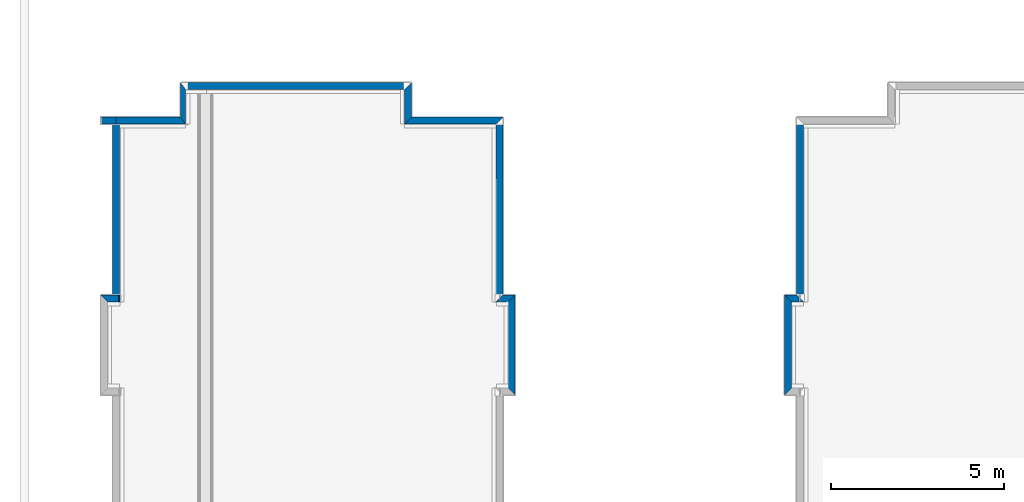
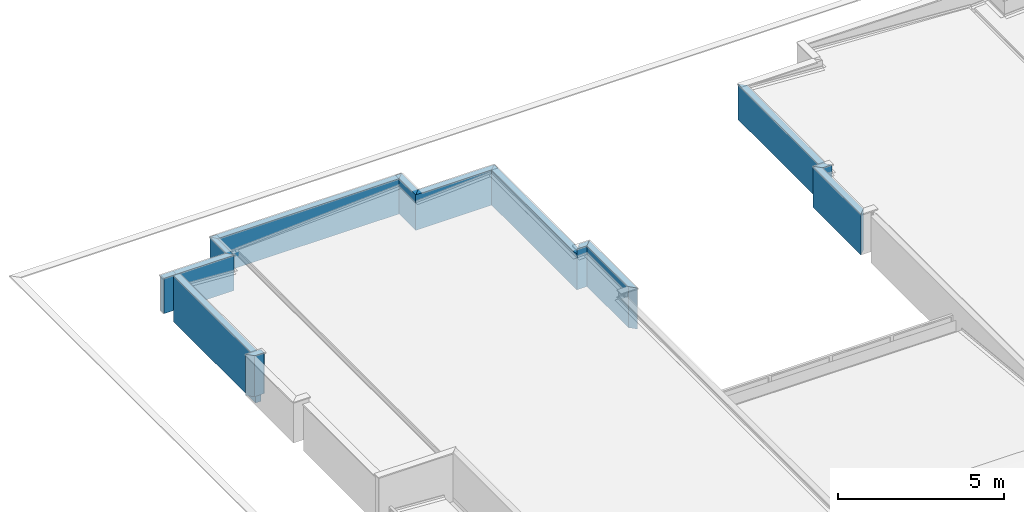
# One storey, part 7 of 25: 15 walls, 4 openings.
"""IFC4 building model written with IfcOpenShell, lengths in metres."""

from ifc_helpers import new_model, entity, si_unit, converted_unit, derived_unit, direction, frame, origin_with_axes, origin_2d_with_axis, place, context, subcontext, project, spatial, line, indexed_curve, rectangle, outline, extrude, polygons, source, transform, mapped, material, layer, layer_set, layer_usage, constituent, constituent_set, type_object, element, fill, save


model = new_model("IFC4")

# Units and contexts
model_context = context("Model", 3, precision=1e-05, world=origin_with_axes(), true_north=direction((0.0, 1.0)))
body_context = subcontext(model_context, "Body", "Model", "MODEL_VIEW")
ifc_project = project(units=[si_unit("LENGTHUNIT", "METRE"), si_unit("AREAUNIT", "SQUARE_METRE"), si_unit("VOLUMEUNIT", "CUBIC_METRE"), converted_unit("PLANEANGLEUNIT", "DEGREE", entity("IfcPlaneAngleMeasure", 0.0174532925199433), si_unit("PLANEANGLEUNIT", "RADIAN"), dimensions=[0, 0, 0, 0, 0, 0, 0]), converted_unit("TIMEUNIT", "Year", entity("IfcTimeMeasure", 31557600.0), si_unit("TIMEUNIT", "SECOND"), dimensions=[0, 0, 1, 0, 0, 0, 0]), si_unit("MASSUNIT", "GRAM", prefix="KILO"), si_unit("THERMODYNAMICTEMPERATUREUNIT", "DEGREE_CELSIUS"), si_unit("LUMINOUSINTENSITYUNIT", "LUMEN"), si_unit("ENERGYUNIT", "JOULE", prefix="MEGA"), derived_unit("THERMALCONDUCTANCEUNIT", [(si_unit("POWERUNIT", "WATT"), 1), (si_unit("LENGTHUNIT", "METRE"), -1), (si_unit("THERMODYNAMICTEMPERATUREUNIT", "KELVIN"), -1)]), derived_unit("SPECIFICHEATCAPACITYUNIT", [(si_unit("ENERGYUNIT", "JOULE"), 1), (si_unit("MASSUNIT", "GRAM", prefix="KILO"), -1), (si_unit("THERMODYNAMICTEMPERATUREUNIT", "KELVIN"), -1)]), derived_unit("MASSDENSITYUNIT", [(si_unit("MASSUNIT", "GRAM", prefix="KILO"), 1), (si_unit("VOLUMEUNIT", "CUBIC_METRE"), -1)])], contexts=[model_context])

# Site, building, storey
site_placement = place(None, origin_with_axes())
site = spatial("IfcSite", under=ifc_project, at=site_placement, Name="PADRÃO", CompositionType="ELEMENT")
building_placement = place(site_placement, origin_with_axes())
building = spatial("IfcBuilding", under=site, at=building_placement, Name="CRECHE PRÉ-ESCOLA TIPO 2", CompositionType="ELEMENT")
storey_placement = place(building_placement, frame((0.0, 0.0, 3.26), z_axis=(0.0, 0.0, 1.0), x_axis=(1.0, 0.0, 0.0)))
storey = spatial("IfcBuildingStorey", under=building, at=storey_placement, Name="COBERTURA", CompositionType="ELEMENT", Elevation=3.26)

# Walls
ifc_material_1 = material(Name="EI-REV-Pintura Acrílica Cor Branco Gelo")
ifc_layer_1 = layer(ifc_material_1, 0.015, ventilated="UNKNOWN", Name="EI-REV-Pintura Acrílica Cor Branco Gelo 1")
ifc_material_2 = material(Name="EI-REV-Massa Acrílica (externa)")
ifc_layer_2 = layer(ifc_material_2, 0.005, ventilated="UNKNOWN", Name="EI-REV-Massa Acrílica (externa) 1")
ifc_material_3 = material(Name="EI-REV-Massa única - Fachada")
ifc_layer_3 = layer(ifc_material_3, 0.005, ventilated="UNKNOWN", Name="EI-REV-Massa única - Fachada 1")
ifc_material_4 = material(Name="EI-REV-Chapisco (externo)")
ifc_layer_4 = layer(ifc_material_4, 0.005, ventilated="UNKNOWN", Name="EI-REV-Chapisco (externo) 1")
ifc_material_5 = material(Name="TIJOLO - CERAMICO 9x19x39 - espessura 15cm")
ifc_layer_5 = layer(ifc_material_5, 0.09, ventilated="UNKNOWN", Name="TIJOLO - CERAMICO 9x19x39 - espessura 15cm")
ifc_layer_6 = layer(ifc_material_4, 0.005, ventilated="UNKNOWN", Name="EI-REV-Chapisco (externo) 2")
ifc_layer_7 = layer(ifc_material_3, 0.005, ventilated="UNKNOWN", Name="EI-REV-Massa única - Fachada 2")
ifc_layer_8 = layer(ifc_material_2, 0.005, ventilated="UNKNOWN", Name="EI-REV-Massa Acrílica (externa) 2")
ifc_layer_9 = layer(ifc_material_1, 0.015, ventilated="UNKNOWN", Name="EI-REV-Pintura Acrílica Cor Branco Gelo 2")
ifc_layer_set_1 = layer_set([ifc_layer_1, ifc_layer_2, ifc_layer_3, ifc_layer_4, ifc_layer_5, ifc_layer_6, ifc_layer_7, ifc_layer_8, ifc_layer_9], Name="FNDE-PLAT_AL09-Pintura Branca")
ifc_layer_usage_1 = layer_usage(ifc_layer_set_1, "AXIS2", "POSITIVE", -0.075)
wall_type_1 = type_object("IfcWallType", Name="FNDE-PLAT_AL09-Pintura Branca 150", PredefinedType="NOTDEFINED")
wall_1_placement = place(storey_placement, frame((-35.3050960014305, 40.8500019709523, 0.0), z_axis=(0.0, 0.0, 1.0), x_axis=(-2.60566381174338e-07, -0.999999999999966, 0.0)))
element("IfcWall", 1, at=wall_1_placement, inside=storey, type_object=wall_type_1, material=ifc_layer_usage_1, Name="AL09", PredefinedType="NOTDEFINED", context=body_context, shape_type="SweptSolid", body=[
    extrude(outline(indexed_curve([(-0.0999999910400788, -0.0750000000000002), (0.899999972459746, -0.0750000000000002), (1.09999993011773, 0.0750000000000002), (0.0999999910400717, 0.0750000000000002)], segments=[line(1, 2, 3, 4, 1)])), origin_with_axes(), (0.0, 0.0, 1.0), 1.31),
])
ifc_material_6 = material(Name="EI-REV-Pintura Acrílica Cor Cinza")
ifc_layer_10 = layer(ifc_material_6, 0.015, ventilated="UNKNOWN", Name="EI-REV-Pintura Acrílica Cor Cinza")
ifc_layer_11 = layer(ifc_material_2, 0.005, ventilated="UNKNOWN", Name="EI-REV-Massa Acrílica (externa) 1")
ifc_layer_12 = layer(ifc_material_3, 0.005, ventilated="UNKNOWN", Name="EI-REV-Massa única - Fachada 1")
ifc_layer_13 = layer(ifc_material_4, 0.005, ventilated="UNKNOWN", Name="EI-REV-Chapisco (externo) 1")
ifc_material_7 = material(Name="TIJOLO - CERAMICO 14x19x39 - espessura 20cm")
ifc_layer_14 = layer(ifc_material_7, 0.14, ventilated="UNKNOWN", Name="TIJOLO - CERAMICO 14x19x39 - espessura 20cm")
ifc_layer_15 = layer(ifc_material_4, 0.005, ventilated="UNKNOWN", Name="EI-REV-Chapisco (externo) 2")
ifc_layer_16 = layer(ifc_material_3, 0.005, ventilated="UNKNOWN", Name="EI-REV-Massa única - Fachada 2")
ifc_layer_17 = layer(ifc_material_2, 0.005, ventilated="UNKNOWN", Name="EI-REV-Massa Acrílica (externa) 2")
ifc_layer_18 = layer(ifc_material_1, 0.015, ventilated="UNKNOWN", Name="EI-REV-Pintura Acrílica Cor Branco Gelo")
ifc_layer_set_2 = layer_set([ifc_layer_10, ifc_layer_11, ifc_layer_12, ifc_layer_13, ifc_layer_14, ifc_layer_15, ifc_layer_16, ifc_layer_17, ifc_layer_18], Name="FNDE-PLAT_AL14-Pintura cinza-branca")
ifc_layer_usage_2 = layer_usage(ifc_layer_set_2, "AXIS2", "POSITIVE", -0.1)
wall_type_2 = type_object("IfcWallType", Name="FNDE-PLAT_AL14-Pintura cinza-branca 200", PredefinedType="NOTDEFINED")
wall_2_placement = place(storey_placement, frame((-26.1400963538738, 39.8499354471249, 0.0), z_axis=(0.0, 0.0, 1.0), x_axis=(-1.0, 0.0, 0.0)))
element("IfcWall", 2, at=wall_2_placement, inside=storey, type_object=wall_type_2, material=ifc_layer_usage_2, Name="AL14", PredefinedType="NOTDEFINED", context=body_context, shape_type="SweptSolid", body=[
    extrude(outline(indexed_curve([(-0.0999999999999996, -0.100000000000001), (2.55002481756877, -0.100000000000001), (2.75002478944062, 0.100000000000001), (0.0999999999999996, 0.100000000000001)], segments=[line(1, 2, 3, 4, 1)])), origin_with_axes(), (0.0, 0.0, 1.0), 1.31),
])
ifc_layer_usage_3 = layer_usage(ifc_layer_set_2, "AXIS2", "POSITIVE", -0.1)
wall_3_placement = place(storey_placement, frame((-35.3050962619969, 39.8500020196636, 0.0), z_axis=(0.0, 0.0, 1.0), x_axis=(-1.0, -2.17138676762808e-08, 0.0)))
element("IfcWall", 3, at=wall_3_placement, inside=storey, type_object=wall_type_2, material=ifc_layer_usage_3, Name="AL14", PredefinedType="NOTDEFINED", context=body_context, shape_type="SweptSolid", body=[
    extrude(outline(indexed_curve([(0.0749999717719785, -0.0999999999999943), (1.93500775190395, -0.100000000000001), (1.93500775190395, 0.100000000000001), (-0.0749999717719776, 0.100000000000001)], segments=[line(1, 2, 3, 4, 1)])), origin_with_axes(), (0.0, 0.0, 1.0), 1.31),
])
ifc_layer_19 = layer(ifc_material_1, 0.015, ventilated="UNKNOWN", Name="EI-REV-Pintura Acrílica Cor Branco Gelo 1")
ifc_layer_20 = layer(ifc_material_2, 0.005, ventilated="UNKNOWN", Name="EI-REV-Massa Acrílica (externa) 1")
ifc_layer_21 = layer(ifc_material_3, 0.005, ventilated="UNKNOWN", Name="EI-REV-Massa única - Fachada 1")
ifc_layer_22 = layer(ifc_material_4, 0.005, ventilated="UNKNOWN", Name="EI-REV-Chapisco (externo) 1")
ifc_layer_23 = layer(ifc_material_7, 0.14, ventilated="UNKNOWN", Name="TIJOLO - CERAMICO 14x19x39 - espessura 20cm")
ifc_layer_24 = layer(ifc_material_4, 0.005, ventilated="UNKNOWN", Name="EI-REV-Chapisco (externo) 2")
ifc_layer_25 = layer(ifc_material_3, 0.005, ventilated="UNKNOWN", Name="EI-REV-Massa única - Fachada 2")
ifc_layer_26 = layer(ifc_material_2, 0.005, ventilated="UNKNOWN", Name="EI-REV-Massa Acrílica (externa) 2")
ifc_layer_27 = layer(ifc_material_1, 0.015, ventilated="UNKNOWN", Name="EI-REV-Pintura Acrílica Cor Branco Gelo 2")
ifc_layer_set_3 = layer_set([ifc_layer_19, ifc_layer_20, ifc_layer_21, ifc_layer_22, ifc_layer_23, ifc_layer_24, ifc_layer_25, ifc_layer_26, ifc_layer_27], Name="FNDE-PLAT_AL14-Pintura Branca")
ifc_layer_usage_4 = layer_usage(ifc_layer_set_3, "AXIS2", "POSITIVE", -0.1)
wall_type_3 = type_object("IfcWallType", Name="FNDE-PLAT_AL14-Pintura Branca 200", PredefinedType="NOTDEFINED")
wall_4_placement = place(storey_placement, frame((-28.7901211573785, 39.8499354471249, 0.0), z_axis=(0.0, 0.0, 1.0), x_axis=(-1.40640753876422e-07, 0.99999999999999, 0.0)))
element("IfcWall", 4, at=wall_4_placement, inside=storey, type_object=wall_type_3, material=ifc_layer_usage_4, Name="AL14", PredefinedType="NOTDEFINED", context=body_context, shape_type="SweptSolid", body=[
    extrude(outline(indexed_curve([(0.0999999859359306, -0.100000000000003), (1.10006557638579, -0.100000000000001), (0.900065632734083, 0.0999999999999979), (-0.0999999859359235, 0.0999999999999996)], segments=[line(1, 2, 3, 4, 1)])), origin_with_axes(), (0.0, 0.0, 1.0), 1.31),
])
ifc_layer_usage_5 = layer_usage(ifc_layer_set_3, "AXIS2", "POSITIVE", -0.1)
wall_5_placement = place(storey_placement, frame((-28.7901212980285, 40.8500010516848, 0.0), z_axis=(0.0, 0.0, 1.0), x_axis=(-0.99999999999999, 1.4110069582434e-07, 0.0)))
element("IfcWall", 5, at=wall_5_placement, inside=storey, type_object=wall_type_3, material=ifc_layer_usage_5, Name="AL14", PredefinedType="NOTDEFINED", context=body_context, shape_type="SweptSolid", body=[
    extrude(outline(indexed_curve([(-0.0999999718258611, -0.100000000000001), (6.58997469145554, -0.100000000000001), (6.43997471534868, 0.0999999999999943), (0.0999999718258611, 0.0999999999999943)], segments=[line(1, 2, 3, 4, 1)])), origin_with_axes(), (0.0, 0.0, 1.0), 1.31),
])
ifc_layer_usage_6 = layer_usage(ifc_layer_set_3, "AXIS2", "NEGATIVE", 0.1)
wall_6_placement = place(storey_placement, frame((-37.2401035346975, 34.7000019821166, -0.409999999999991), z_axis=(0.0, 0.0, 1.0), x_axis=(-9.304918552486e-08, 0.999999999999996, 0.0)))
element("IfcWall", 6, at=wall_6_placement, inside=storey, type_object=wall_type_3, material=ifc_layer_usage_6, Name="AL14", PredefinedType="NOTDEFINED", context=body_context, shape_type="SweptSolid", body=[
    extrude(outline(indexed_curve([(0.100000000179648, -0.1), (5.04999998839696, -0.0999999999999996), (5.05000000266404, 0.100000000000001), (0.0999880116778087, 0.1)], segments=[line(1, 2, 3, 4, 1)])), origin_with_axes(), (0.0, 0.0, 1.0), 1.72),
])
ifc_layer_usage_7 = layer_usage(ifc_layer_set_3, "AXIS2", "NEGATIVE", 0.1)
wall_7_placement = place(storey_placement, frame((-26.1400963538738, 34.7001830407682, 0.0), z_axis=(0.0, 0.0, 1.0), x_axis=(0.0, 1.0, 0.0)))
element("IfcWall", 7, at=wall_7_placement, inside=storey, type_object=wall_type_3, material=ifc_layer_usage_7, Name="AL14", PredefinedType="NOTDEFINED", context=body_context, shape_type="SweptSolid", body=[
    extrude(outline(indexed_curve([(0.099993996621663, -0.0999999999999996), (5.24975240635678, -0.0999999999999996), (5.04975240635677, 0.0999999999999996), (-0.0999939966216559, 0.0999999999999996)], segments=[line(1, 2, 3, 4, 1)])), origin_with_axes(), (0.0, 0.0, 1.0), 1.31),
])
ifc_layer_usage_8 = layer_usage(ifc_layer_set_3, "AXIS2", "NEGATIVE", 0.1)
wall_8_placement = place(storey_placement, frame((-17.4400505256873, 34.7001823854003, 0.0), z_axis=(0.0, 0.0, 1.0), x_axis=(0.0, 1.0, 0.0)))
element("IfcWall", 8, at=wall_8_placement, inside=storey, type_object=wall_type_3, material=ifc_layer_usage_8, Name="AL14", PredefinedType="NOTDEFINED", context=body_context, shape_type="SweptSolid", body=[
    extrude(outline(indexed_curve([(-0.0999939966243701, -0.100000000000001), (5.0499080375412, -0.100000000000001), (5.24990803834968, 0.0999999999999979), (0.0999939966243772, 0.0999999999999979)], segments=[line(1, 2, 3, 4, 1)])), origin_with_axes(), (0.0, 0.0, 1.0), 1.31),
])
ifc_layer_usage_9 = layer_usage(ifc_layer_set_3, "AXIS2", "NEGATIVE", 0.1)
wall_9_placement = place(storey_placement, frame((-17.7900123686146, 32.0001883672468, 0.0), z_axis=(0.0, 0.0, 1.0), x_axis=(0.0, 1.0, 0.0)))
element("IfcWall", 9, at=wall_9_placement, inside=storey, type_object=wall_type_3, material=ifc_layer_usage_9, Name="AL14", PredefinedType="NOTDEFINED", context=body_context, shape_type="SweptSolid", body=[
    extrude(outline(indexed_curve([(0.0999999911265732, -0.100000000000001), (2.59997901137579, -0.100000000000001), (2.79996700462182, 0.0999999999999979), (-0.0999999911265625, 0.0999999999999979)], segments=[line(1, 2, 3, 4, 1)])), origin_with_axes(), (0.0, 0.0, 1.0), 1.51),
])

# Wall, opening
ifc_layer_usage_10 = layer_usage(ifc_layer_set_3, "AXIS2", "NEGATIVE", 0.1)
wall_10_placement = place(storey_placement, frame((-17.790012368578, 34.7001613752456, 0.0), z_axis=(0.0, 0.0, 1.0), x_axis=(0.999999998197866, 6.00355582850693e-05, 0.0)))
wall_10 = element("IfcWall", 10, at=wall_10_placement, inside=storey, type_object=wall_type_3, material=ifc_layer_usage_10, Name="AL14", PredefinedType="NOTDEFINED", context=body_context, shape_type="SweptSolid", body=[
    extrude(outline(indexed_curve([(0.0999939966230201, -0.100000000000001), (0.449955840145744, -0.100000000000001), (0.249967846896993, 0.100000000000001), (-0.0999939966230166, 0.100000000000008)], segments=[line(1, 2, 3, 4, 1)])), origin_with_axes(), (0.0, 0.0, 1.0), 1.51),
])
opening_1_placement = place(wall_10_placement, frame((0.34996184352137, 0.0, 0.0), z_axis=(0.0, 0.0, 1.0), x_axis=(1.0, 0.0, 0.0)))
element("IfcOpeningElement", 11, at=opening_1_placement, cuts=wall_10, Name="AL14", ObjectType="Recess", context=body_context, shape_type="Tessellation", body=[
    polygons([(-0.0199999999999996, -0.0799999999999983, 1.51), (-0.0199999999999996, -0.0799999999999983, 0.0), (-0.0200000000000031, -0.0850000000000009, 0.0), (-0.0200000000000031, -0.0850000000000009, 1.51), (-0.0249999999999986, -0.0799999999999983, 1.51), (-0.0249999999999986, -0.0799999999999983, 0.0), (0.0, 0.0, 0.0), (0.0, -0.100000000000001, 0.0), (-0.0150000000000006, -0.100000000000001, 0.0), (-0.0150000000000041, -0.0850000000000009, 0.0), (-0.0249999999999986, 0.0250015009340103, 0.0), (-0.0150000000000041, -0.0850000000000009, 1.51), (-0.0150000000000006, -0.100000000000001, 1.51), (0.0, -0.100000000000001, 1.51), (0.0, 0.0, 1.51), (-0.0249999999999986, 0.0250015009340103, 1.51)], [[[1, 2, 3, 4]], [[2, 1, 5, 6]], [[7, 8, 9, 10, 3, 2, 6, 11]], [[10, 12, 4, 3]], [[1, 4, 12, 13, 14, 15, 16, 5]], [[5, 16, 11, 6]], [[15, 14, 8, 7]], [[14, 13, 9, 8]], [[12, 10, 9, 13]], [[7, 11, 16, 15]]], closed=True),
])

# Wall
ifc_layer_usage_11 = layer_usage(ifc_layer_set_3, "AXIS2", "POSITIVE", -0.1)
wall_11_placement = place(storey_placement, frame((-25.7895277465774, 32.0001889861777, 0.0), z_axis=(0.0, 0.0, 1.0), x_axis=(0.0, 1.0, 0.0)))
element("IfcWall", 12, at=wall_11_placement, inside=storey, type_object=wall_type_3, material=ifc_layer_usage_11, Name="AL14", PredefinedType="NOTDEFINED", context=body_context, shape_type="SweptSolid", body=[
    extrude(outline(indexed_curve([(-0.0999999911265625, -0.0999999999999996), (2.79996700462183, -0.0999999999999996), (2.59997901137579, 0.0999999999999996), (0.0999999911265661, 0.0999999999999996)], segments=[line(1, 2, 3, 4, 1)])), origin_with_axes(), (0.0, 0.0, 1.0), 1.51),
])

# Wall, opening
ifc_layer_usage_12 = layer_usage(ifc_layer_set_3, "AXIS2", "POSITIVE", -0.1)
wall_12_placement = place(storey_placement, frame((-25.7895277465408, 34.7001619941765, 0.0), z_axis=(0.0, 0.0, 1.0), x_axis=(-0.999999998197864, 6.00355854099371e-05, 0.0)))
wall_12 = element("IfcWall", 13, at=wall_12_placement, inside=storey, type_object=wall_type_3, material=ifc_layer_usage_12, Name="AL14", PredefinedType="NOTDEFINED", context=body_context, shape_type="SweptSolid", body=[
    extrude(outline(indexed_curve([(-0.0999939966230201, -0.100000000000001), (0.250574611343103, -0.100000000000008), (0.450562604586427, 0.100000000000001), (0.0999939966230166, 0.100000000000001)], segments=[line(1, 2, 3, 4, 1)])), origin_with_axes(), (0.0, 0.0, 1.0), 1.51),
])
opening_2_placement = place(wall_12_placement, frame((0.350568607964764, 0.0, 0.0), z_axis=(0.0, 0.0, 1.0), x_axis=(1.0, 0.0, 0.0)))
element("IfcOpeningElement", 14, at=opening_2_placement, cuts=wall_12, Name="AL14", ObjectType="Recess", context=body_context, shape_type="Tessellation", body=[
    polygons([(-0.0199999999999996, 0.0799999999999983, 0.0), (-0.0199999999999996, 0.0799999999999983, 1.51), (-0.0199999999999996, 0.085000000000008, 1.51), (-0.0199999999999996, 0.085000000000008, 0.0), (-0.0249999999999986, 0.0800000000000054, 0.0), (-0.0249999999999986, 0.0800000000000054, 1.51), (0.0, 0.0, 1.51), (0.0, 0.0999999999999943, 1.51), (-0.0149999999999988, 0.100000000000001, 1.51), (-0.0149999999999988, 0.0850000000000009, 1.51), (-0.0249999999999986, -0.0250015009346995, 1.51), (-0.0149999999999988, 0.0850000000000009, 0.0), (-0.0149999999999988, 0.100000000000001, 0.0), (0.0, 0.0999999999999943, 0.0), (0.0, 0.0, 0.0), (-0.0249999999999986, -0.0250015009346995, 0.0)], [[[1, 2, 3, 4]], [[2, 1, 5, 6]], [[7, 8, 9, 10, 3, 2, 6, 11]], [[10, 12, 4, 3]], [[1, 4, 12, 13, 14, 15, 16, 5]], [[11, 6, 5, 16]], [[8, 7, 15, 14]], [[9, 8, 14, 13]], [[12, 10, 9, 13]], [[11, 16, 15, 7]]], closed=True),
])

ifc_layer_28 = layer(ifc_material_6, 0.015, ventilated="UNKNOWN", Name="EI-REV-Pintura Acrílica Cor Cinza 1")
ifc_layer_29 = layer(ifc_material_2, 0.005, ventilated="UNKNOWN", Name="EI-REV-Massa Acrílica (externa) 1")
ifc_layer_30 = layer(ifc_material_3, 0.005, ventilated="UNKNOWN", Name="EI-REV-Massa única - Fachada 1")
ifc_layer_31 = layer(ifc_material_4, 0.005, ventilated="UNKNOWN", Name="EI-REV-Chapisco (externo) 1")
ifc_layer_32 = layer(ifc_material_7, 0.14, ventilated="UNKNOWN", Name="TIJOLO - CERAMICO 14x19x39 - espessura 20cm")
ifc_layer_33 = layer(ifc_material_4, 0.005, ventilated="UNKNOWN", Name="EI-REV-Chapisco (externo) 2")
ifc_layer_34 = layer(ifc_material_3, 0.005, ventilated="UNKNOWN", Name="EI-REV-Massa única - Fachada 2")
ifc_layer_35 = layer(ifc_material_2, 0.005, ventilated="UNKNOWN", Name="EI-REV-Massa Acrílica (externa) 2")
ifc_layer_36 = layer(ifc_material_6, 0.015, ventilated="UNKNOWN", Name="EI-REV-Pintura Acrílica Cor Cinza 2")
ifc_layer_set_4 = layer_set([ifc_layer_28, ifc_layer_29, ifc_layer_30, ifc_layer_31, ifc_layer_32, ifc_layer_33, ifc_layer_34, ifc_layer_35, ifc_layer_36], Name="FNDE-PLAT_AL14-Pintura cinza")
ifc_layer_usage_13 = layer_usage(ifc_layer_set_4, "AXIS2", "POSITIVE", -0.1)
wall_type_4 = type_object("IfcWallType", Name="FNDE-PLAT_AL14-Pintura cinza 200", PredefinedType="NOTDEFINED")
wall_13_placement = place(storey_placement, frame((-37.2401040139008, 39.8500019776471, 0.0), z_axis=(0.0, 0.0, 1.0), x_axis=(-1.0, -2.17138795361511e-08, 0.0)))
wall_13 = element("IfcWall", 15, at=wall_13_placement, inside=storey, type_object=wall_type_4, material=ifc_layer_usage_13, Name="AL14", PredefinedType="NOTDEFINED", context=body_context, shape_type="SweptSolid", body=[
    extrude(outline(indexed_curve([(0.0, -0.100000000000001), (0.449967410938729, -0.100000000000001), (0.449967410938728, 0.100000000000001), (0.0, 0.100000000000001)], segments=[line(1, 2, 3, 4, 1)])), origin_with_axes(), (0.0, 0.0, 1.0), 1.31),
])
opening_3_placement = place(wall_13_placement, frame((0.449967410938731, 0.0, 0.0), z_axis=(0.0, 0.0, 1.0), x_axis=(1.0, 0.0, 0.0)))
element("IfcOpeningElement", 16, at=opening_3_placement, cuts=wall_13, Name="AL14", context=body_context, shape_type="SweptSolid", body=[
    extrude(rectangle(XDim=0.200000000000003, YDim=0.0150000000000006, at=origin_2d_with_axis()), frame((-0.00749999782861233, -9.60768176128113e-09, 0.0), z_axis=(0.0, 0.0, 1.0), x_axis=(-2.17138795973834e-08, -1.0, 0.0)), (0.0, 0.0, 1.0), 1.31),
    extrude(rectangle(XDim=0.185000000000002, YDim=0.00500000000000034, at=origin_2d_with_axis()), frame((-0.0174999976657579, 0.00749999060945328, 0.0), z_axis=(0.0, 0.0, 1.0), x_axis=(-2.17138795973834e-08, -1.0, 0.0)), (0.0, 0.0, 1.0), 1.31),
    extrude(rectangle(XDim=0.18, YDim=0.00500000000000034, at=origin_2d_with_axis()), frame((-0.0224999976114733, 0.00999999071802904, 0.0), z_axis=(0.0, 0.0, 1.0), x_axis=(-2.17138795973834e-08, -1.0, 0.0)), (0.0, 0.0, 1.0), 1.31),
])

# Walls, opening
ifc_material_8 = material(Name="EI-REV-Pintura Acrílica Cor Azul Externa")
ifc_layer_37 = layer(ifc_material_8, 0.015, ventilated="UNKNOWN", Name="EI-REV-Pintura Acrílica Cor Azul Externa")
ifc_layer_38 = layer(ifc_material_2, 0.005, ventilated="UNKNOWN", Name="EI-REV-Massa Acrílica (externa) 1")
ifc_layer_39 = layer(ifc_material_3, 0.005, ventilated="UNKNOWN", Name="EI-REV-Massa única - Fachada 1")
ifc_layer_40 = layer(ifc_material_4, 0.005, ventilated="UNKNOWN", Name="EI-REV-Chapisco (externo) 1")
ifc_layer_41 = layer(ifc_material_7, 0.14, ventilated="UNKNOWN", Name="TIJOLO - CERAMICO 14x19x39 - espessura 20cm")
ifc_layer_42 = layer(ifc_material_4, 0.005, ventilated="UNKNOWN", Name="EI-REV-Chapisco (externo) 2")
ifc_layer_43 = layer(ifc_material_3, 0.005, ventilated="UNKNOWN", Name="EI-REV-Massa única - Fachada 2")
ifc_layer_44 = layer(ifc_material_2, 0.005, ventilated="UNKNOWN", Name="EI-REV-Massa Acrílica (externa) 2")
ifc_layer_45 = layer(ifc_material_1, 0.015, ventilated="UNKNOWN", Name="EI-REV-Pintura Acrílica Cor Branco Gelo")
ifc_layer_set_5 = layer_set([ifc_layer_37, ifc_layer_38, ifc_layer_39, ifc_layer_40, ifc_layer_41, ifc_layer_42, ifc_layer_43, ifc_layer_44, ifc_layer_45], Name="FNDE-PLAT_AL14-Pintura Azul - Branca")
ifc_layer_usage_14 = layer_usage(ifc_layer_set_5, "AXIS2", "NEGATIVE", 0.1)
wall_type_5 = type_object("IfcWallType", Name="FNDE-PLAT_AL14-Pintura Azul - Branca 200", PredefinedType="NOTDEFINED")
wall_14_placement = place(storey_placement, frame((-37.5900921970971, 34.6999749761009, 0.0), z_axis=(0.0, 0.0, 1.0), x_axis=(0.999999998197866, 6.00355582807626e-05, 0.0)))
wall_14 = element("IfcWall", 17, at=wall_14_placement, inside=storey, type_object=wall_type_5, material=ifc_layer_usage_14, Name="AL14", PredefinedType="NOTDEFINED", context=body_context, shape_type="SweptSolid", body=[
    extrude(outline(indexed_curve([(0.0999939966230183, -0.100000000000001), (0.45, -0.100000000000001), (0.45, 0.100000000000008), (-0.0999939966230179, 0.100000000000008)], segments=[line(1, 2, 3, 4, 1)])), origin_with_axes(), (0.0, 0.0, 1.0), 1.51),
])
opening_4_placement = place(wall_14_placement, frame((0.45, 0.0, 0.0), z_axis=(0.0, 0.0, 1.0), x_axis=(1.0, 0.0, 0.0)))
opening_4 = element("IfcOpeningElement", 18, at=opening_4_placement, cuts=wall_14, Name="AL14", ObjectType="Recess", context=body_context, shape_type="SweptSolid", body=[
    extrude(rectangle(XDim=0.185000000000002, YDim=0.0149999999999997, at=origin_2d_with_axis()), frame((-0.00750000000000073, -0.00750000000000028, 0.0), z_axis=(0.0, 0.0, 1.0), x_axis=(0.0, -1.0, 0.0)), (0.0, 0.0, 1.0), 1.51),
    extrude(rectangle(XDim=0.170000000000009, YDim=0.00500000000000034, at=origin_2d_with_axis()), frame((-0.0175000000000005, 0.0, 0.0), z_axis=(0.0, 0.0, 1.0), x_axis=(0.0, -1.0, 0.0)), (0.0, 0.0, 1.0), 1.51),
    extrude(rectangle(XDim=0.165000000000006, YDim=0.00499999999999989, at=origin_2d_with_axis()), frame((-0.0225000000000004, 0.00249999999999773, 0.0), z_axis=(0.0, 0.0, 1.0), x_axis=(0.0, -1.0, 0.0)), (0.0, 0.0, 1.0), 1.51),
])
ifc_constituent_1 = constituent(ifc_material_1, Name="EI-REV-Pintura Acrílica Cor Branco Gelo")
ifc_constituent_2 = constituent(ifc_material_2, Name="EI-REV-Massa Acrílica (externa)")
ifc_constituent_3 = constituent(ifc_material_3, Name="EI-REV-Massa única - Fachada")
ifc_constituent_set = constituent_set(constituents=[ifc_constituent_1, ifc_constituent_2, ifc_constituent_3])
wall_type_6 = type_object("IfcWallType", Name="Arremate com Dobra Revest 27", PredefinedType="NOTDEFINED")
shared_shape = source(origin_with_axes(), body_context, "Body", "Tessellation", [
    polygons([(0.015, 0.0, 0.0), (0.015, -0.015, 0.0), (0.015, -0.015, 1.51), (0.015, 0.0, 1.51), (0.2, 0.0, 0.0), (0.2, -0.015, 0.0), (0.2, -0.015, 1.51), (0.2, 0.0, 1.51)], [[[1, 2, 3, 4]], [[5, 6, 2, 1]], [[6, 7, 3, 2]], [[7, 8, 4, 3]], [[8, 5, 1, 4]], [[5, 8, 7, 6]]], closed=True),
    polygons([(0.015, -0.015, 0.0), (0.015, -0.02, 0.0), (0.015, -0.02, 1.51), (0.015, -0.015, 1.51), (0.185, -0.015, 0.0), (0.185, -0.02, 0.0), (0.185, -0.02, 1.51), (0.185, -0.015, 1.51)], [[[1, 2, 3, 4]], [[5, 6, 2, 1]], [[6, 7, 3, 2]], [[7, 8, 4, 3]], [[8, 5, 1, 4]], [[5, 8, 7, 6]]], closed=True),
    polygons([(0.015, -0.02, 0.0), (0.015, -0.025, 0.0), (0.015, -0.025, 1.51), (0.015, -0.02, 1.51), (0.18, -0.02, 0.0), (0.18, -0.025, 0.0), (0.18, -0.025, 1.51), (0.18, -0.02, 1.51)], [[[1, 2, 3, 4]], [[5, 6, 2, 1]], [[6, 7, 3, 2]], [[7, 8, 4, 3]], [[8, 5, 1, 4]], [[5, 8, 7, 6]]], closed=True),
])
wall_15_placement = place(opening_4_placement, frame((0.0125000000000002, 0.0, 0.0), z_axis=(0.0, 0.0, 1.0), x_axis=(-1.0, 0.0, 0.0)))
wall_15 = element("IfcWall", 19, at=wall_15_placement, inside=storey, type_object=wall_type_6, material=ifc_constituent_set, Name="AL14", PredefinedType="NOTDEFINED", context=body_context, shape_type="MappedRepresentation", body=[
    mapped(shared_shape, transform((0.0124999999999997, -0.100000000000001, 0.0), x_axis=(0.0, 1.0, 0.0), y_axis=(-1.0, 0.0, 0.0), z_axis=(0.0, 0.0, 1.0))),
])
fill(opening_4, wall_15)

save(model, "model.ifc")
